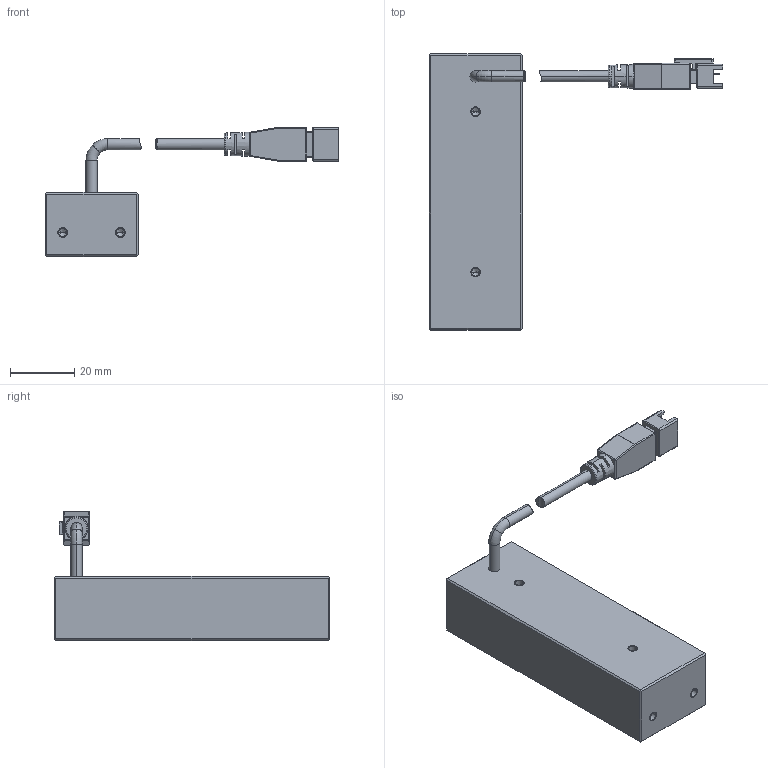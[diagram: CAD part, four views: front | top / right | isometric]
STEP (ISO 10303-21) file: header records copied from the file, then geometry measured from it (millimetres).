
FILE_DESCRIPTION((''),'2;1');
FILE_NAME('JIANGYI_ASM','2014-06-10T',('admin'),(''),'PRO/ENGINEER BY PARAMETRIC TECHNOLOGY CORPORATION, 2011220','PRO/ENGINEER BY PARAMETRIC TECHNOLOGY CORPORATION, 2011220','');
FILE_SCHEMA(('CONFIG_CONTROL_DESIGN'));
Length unit declared in the file: millimetre
Products named in the file (5): PRT0001; LINE_TOU; BODY_12; ASSY_ASM; JIANGYI_ASM
Assembly tree (4 placements, depth 3):
  JIANGYI_ASM
    PRT0001
    ASSY_ASM
      LINE_TOU
      BODY_12
Bounding box: 91.6 x 86 x 40.25 mm (x, y, z)
Volume: 51169.7 mm3; surface area: 12470.3 mm2
Topology: 3 solids, 9 shells, 290 faces, 732 edges, 459 vertices
Faces by surface type: plane 157, cylinder 91, cone 14, torus 12, bspline 8, sphere 8
Entity records: 8905 total; most frequent: CARTESIAN_POINT 1789, DIRECTION 1500, ORIENTED_EDGE 1416, EDGE_CURVE 720, AXIS2_PLACEMENT_3D 519, VECTOR 462, LINE 462, VERTEX_POINT 459
